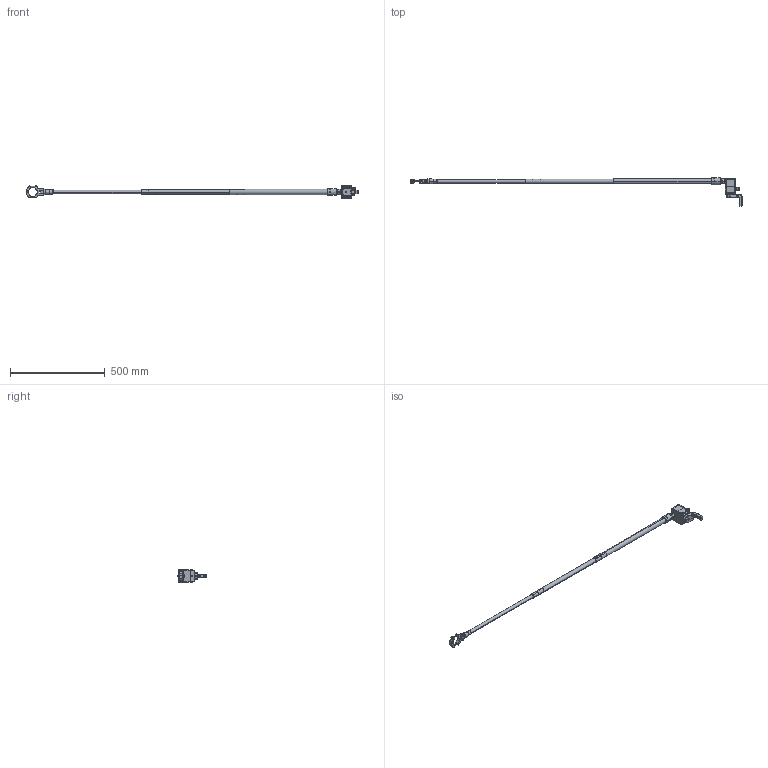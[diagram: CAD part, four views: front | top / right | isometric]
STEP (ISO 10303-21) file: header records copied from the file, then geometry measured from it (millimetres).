
FILE_DESCRIPTION (( 'STEP AP214' ), '1' );
FILE_NAME ('CAR282 TLS1 aperto sensore magnetico.STEP', '2018-12-19T14:25:05', ( '' ), ( '' ), 'SwSTEP 2.0', 'SolidWorks 2017', '' );
FILE_SCHEMA (( 'AUTOMOTIVE_DESIGN' ));
Length unit declared in the file: millimetre
Products named in the file (1): CAR282 TLS1 aperto sensore magnetico
Bounding box: 1754.32 x 149 x 68 mm (x, y, z)
Volume: 467420.9 mm3; surface area: 373016 mm2
Topology: 56 solids, 56 shells, 1638 faces, 3833 edges, 2353 vertices
Faces by surface type: plane 757, cylinder 489, cone 296, torus 58, bspline 38
Entity records: 67585 total; most frequent: CARTESIAN_POINT 11108, DIRECTION 8075, ORIENTED_EDGE 7550, EDGE_CURVE 3775, AXIS2_PLACEMENT_3D 2903, VERTEX_POINT 2353, LINE 2269, VECTOR 2269
